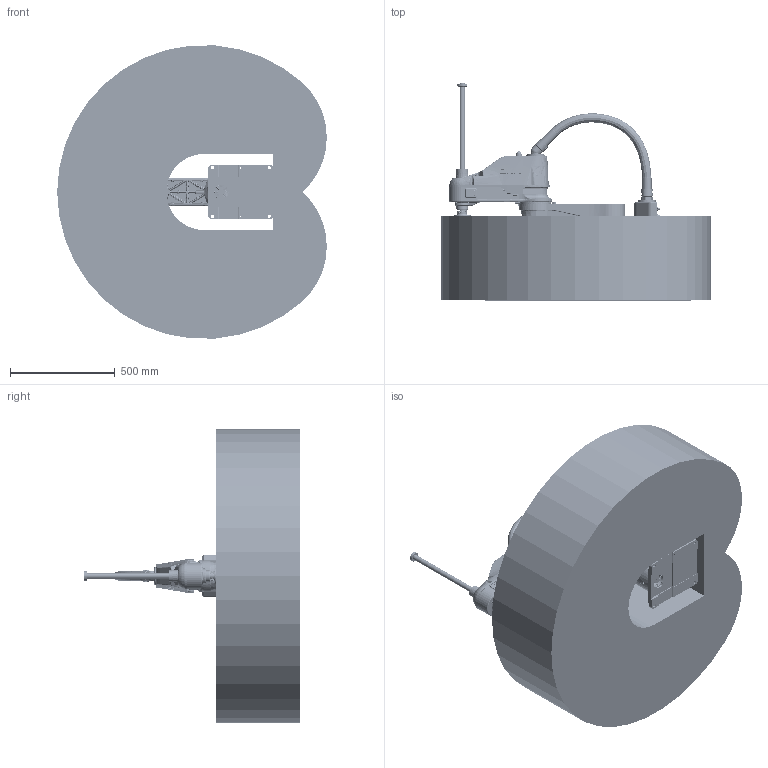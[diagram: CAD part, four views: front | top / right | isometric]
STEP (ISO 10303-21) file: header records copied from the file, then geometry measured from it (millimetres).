
FILE_DESCRIPTION (( 'STEP AP203' ), '1' );
FILE_NAME ('AH10-0700-0204-4000_V1.2.0.STEP', '2022-01-12T02:27:23', ( '' ), ( '' ), 'SwSTEP 2.0', 'SolidWorks 2017', '' );
FILE_SCHEMA (( 'CONFIG_CONTROL_DESIGN' ));
Products named in the file (7): AH10-0700-0204-4000-T1_V1.2.0; AH10-0700-0204-4000-T3_V1.2.0; AH10-0700-0204-4000-T2_V1.2.0; AH10-0700-0204-4000-T4_V1.2.0; AH10-0700-0204-4000-T5_V1.2.0; AH10-0700-0204-4000-T6_V1.2.0; AH10-0700-0204-4000_V1.2.0
Assembly tree (6 placements, depth 2):
  AH10-0700-0204-4000_V1.2.0
    AH10-0700-0204-4000-T1_V1.2.0
    AH10-0700-0204-4000-T3_V1.2.0
    AH10-0700-0204-4000-T2_V1.2.0
    AH10-0700-0204-4000-T4_V1.2.0
    AH10-0700-0204-4000-T5_V1.2.0
    AH10-0700-0204-4000-T6_V1.2.0
Bounding box: 1284.2 x 1033 x 1396.09 mm (x, y, z)
Volume: 518643625.6 mm3; surface area: 8278121.6 mm2
Topology: 93 solids, 495 shells, 22822 faces, 63156 edges, 40660 vertices
Faces by surface type: plane 9840, cylinder 6750, bspline 3221, cone 1951, torus 617, sphere 443
Entity records: 934863 total; most frequent: CARTESIAN_POINT 384781, ORIENTED_EDGE 120167, DIRECTION 101484, EDGE_CURVE 62355, VERTEX_POINT 40638, AXIS2_PLACEMENT_3D 34637, LINE 32210, VECTOR 32210
